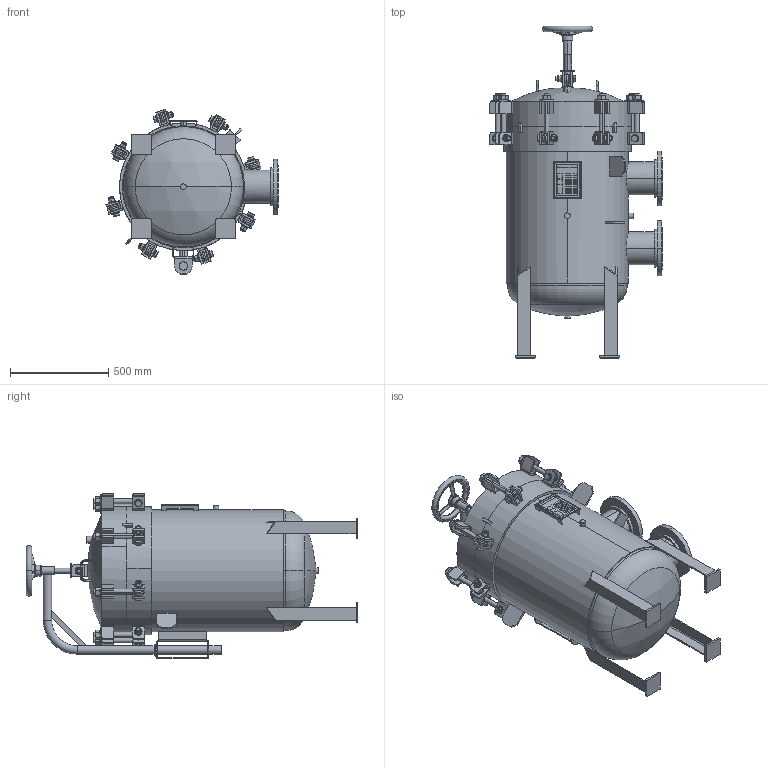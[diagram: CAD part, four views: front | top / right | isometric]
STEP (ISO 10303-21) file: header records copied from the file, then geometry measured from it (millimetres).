
FILE_DESCRIPTION (( 'STEP AP203' ), '1' );
FILE_NAME ('002004-02176.step', '2025-12-09T13:51:33', ( '' ), ( '' ), 'SwSTEP 2.0', 'SolidWorks 2023', '' );
FILE_SCHEMA (( 'CONFIG_CONTROL_DESIGN' ));
Length unit declared in the file: inch
Products named in the file (1): 002004-02176
Bounding box: 877.6 x 1690.83 x 843.52 mm (x, y, z)
Volume: 163170821.7 mm3; surface area: 6929036.5 mm2
Topology: 34 solids, 34 shells, 1750 faces, 4163 edges, 2605 vertices
Faces by surface type: plane 754, cylinder 504, cone 352, torus 82, bspline 48, sphere 10
Entity records: 58588 total; most frequent: CARTESIAN_POINT 18414, DIRECTION 8439, ORIENTED_EDGE 8302, EDGE_CURVE 4151, AXIS2_PLACEMENT_3D 3335, VERTEX_POINT 2605, EDGE_LOOP 1926, VECTOR 1769
